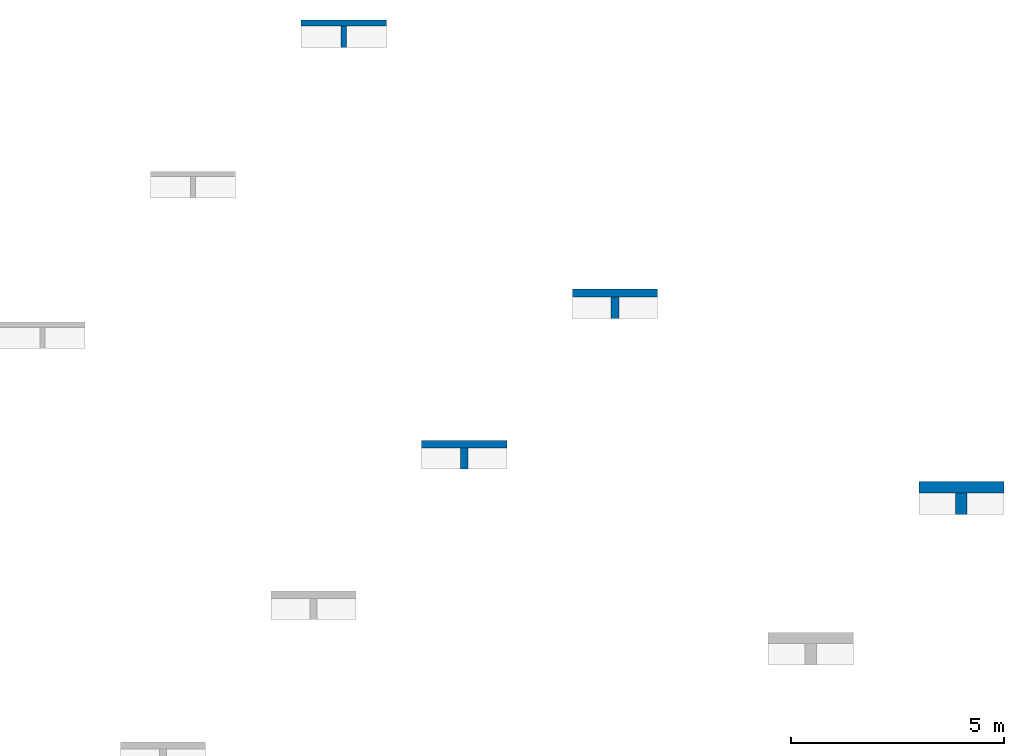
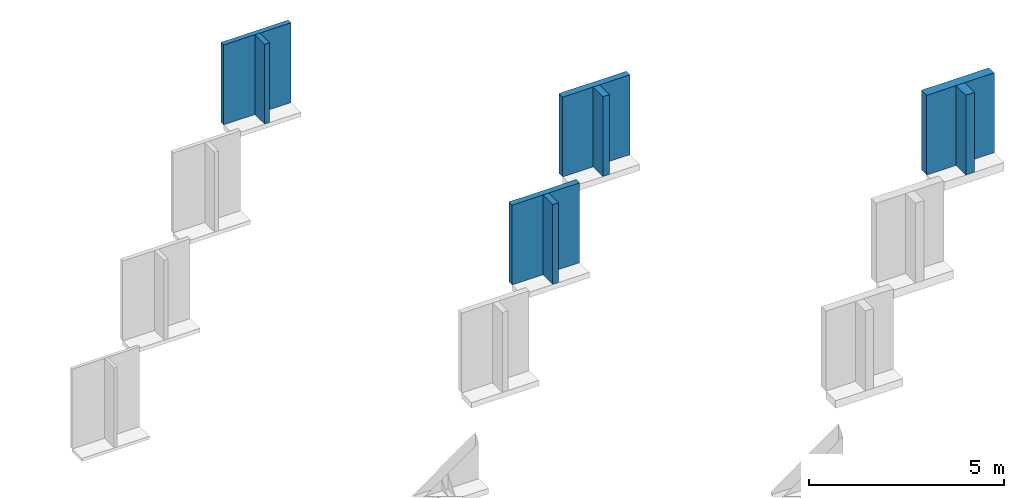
# One storey, part 2 of 2: 8 walls.
"""IFC2X3 building model written with IfcOpenShell, lengths in millimetres."""

from ifc_helpers import new_model, entity, si_unit, converted_unit, derived_unit, direction, frame, frame_2d, origin, place, context, subcontext, project, spatial, rectangle, extrude, material, layer, layer_set, layer_usage, type_object, element, save


model = new_model("IFC2X3")

# Units and contexts
model_context = context("Model", 3, precision=0.01, world=origin(), true_north=direction((6.12303176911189e-17, 1.0)))
context_of_model = context(None, 3, precision=0.01, world=origin(), true_north=direction((6.12303176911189e-17, 1.0)))
body_context = subcontext(model_context, "Body", "Model", "MODEL_VIEW")
ifc_project = project(units=[si_unit("LENGTHUNIT", "METRE", prefix="MILLI"), si_unit("AREAUNIT", "SQUARE_METRE"), si_unit("VOLUMEUNIT", "CUBIC_METRE"), converted_unit("PLANEANGLEUNIT", "DEGREE", entity("IfcRatioMeasure", 0.0174532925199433), si_unit("PLANEANGLEUNIT", "RADIAN"), dimensions=[0, 0, 0, 0, 0, 0, 0]), si_unit("MASSUNIT", "GRAM", prefix="KILO"), derived_unit("MASSDENSITYUNIT", [(si_unit("MASSUNIT", "GRAM", prefix="KILO"), 1), (si_unit("LENGTHUNIT", "METRE"), -3)]), si_unit("TIMEUNIT", "SECOND"), si_unit("FREQUENCYUNIT", "HERTZ"), si_unit("THERMODYNAMICTEMPERATUREUNIT", "DEGREE_CELSIUS"), derived_unit("THERMALTRANSMITTANCEUNIT", [(si_unit("MASSUNIT", "GRAM", prefix="KILO"), 1), (si_unit("THERMODYNAMICTEMPERATUREUNIT", "KELVIN"), -1), (si_unit("TIMEUNIT", "SECOND"), -3)]), derived_unit("VOLUMETRICFLOWRATEUNIT", [(si_unit("LENGTHUNIT", "METRE"), 3), (si_unit("TIMEUNIT", "SECOND"), -1)]), si_unit("ELECTRICCURRENTUNIT", "AMPERE"), si_unit("ELECTRICVOLTAGEUNIT", "VOLT"), si_unit("POWERUNIT", "WATT"), si_unit("FORCEUNIT", "NEWTON", prefix="KILO"), si_unit("ILLUMINANCEUNIT", "LUX"), si_unit("LUMINOUSFLUXUNIT", "LUMEN"), si_unit("LUMINOUSINTENSITYUNIT", "CANDELA"), derived_unit("USERDEFINED", [(si_unit("MASSUNIT", "GRAM", prefix="KILO"), -1), (si_unit("LENGTHUNIT", "METRE"), -2), (si_unit("TIMEUNIT", "SECOND"), 3), (si_unit("LUMINOUSFLUXUNIT", "LUMEN"), 1)]), derived_unit("LINEARVELOCITYUNIT", [(si_unit("LENGTHUNIT", "METRE"), 1), (si_unit("TIMEUNIT", "SECOND"), -1)]), si_unit("PRESSUREUNIT", "PASCAL"), derived_unit("USERDEFINED", [(si_unit("LENGTHUNIT", "METRE"), -2), (si_unit("MASSUNIT", "GRAM", prefix="KILO"), 1), (si_unit("TIMEUNIT", "SECOND"), -2)])], contexts=[model_context, context_of_model])

# Site, building, storey
site_placement = place(None, origin())
site = spatial("IfcSite", under=ifc_project, at=site_placement, Name="Default", CompositionType="ELEMENT")
building_placement = place(site_placement, origin())
building = spatial("IfcBuilding", under=site, at=building_placement, CompositionType="ELEMENT")
storey_placement = place(building_placement, origin())
storey = spatial("IfcBuildingStorey", under=building, at=storey_placement, Name="Begane grond", CompositionType="ELEMENT", Elevation=0.0)

# Walls
ifc_material = material(Name="Knauf Insulation_Ecose® glaswol_naturoll 037")
ifc_layer_1 = layer(ifc_material, 140.0)
ifc_layer_set_1 = layer_set([ifc_layer_1], Name="Basic Wall:NLRS_21_WA_Naturoll 037_140x380x5600mm")
ifc_layer_usage_1 = layer_usage(ifc_layer_set_1, "AXIS2", "NEGATIVE", 70.0)
wall_type_1 = type_object("IfcWallType", Name="Basic Wall:NLRS_21_WA_Naturoll 037_140x380x5600mm", PredefinedType="STANDARD", material=ifc_layer_set_1)
wall_1_placement = place(storey_placement, frame((5069.73094264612, 17251.2829007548, 0.0)))
element("IfcWallStandardCase", 1, at=wall_1_placement, inside=storey, type_object=wall_type_1, material=ifc_layer_usage_1, Name="Basic Wall:NLRS_21_WA_Naturoll 037_140x380x5600mm", ObjectType="Basic Wall:NLRS_21_WA_Naturoll 037_140x380x5600mm", context=body_context, shape_type="SweptSolid", body=[
    extrude(rectangle(XDim=2000.0, YDim=139.999999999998, at=frame_2d((1000.0, 0.0), x_axis=(-1.0, 0.0))), origin(), (0.0, 0.0, 1.0), 2500.0),
])
ifc_layer_usage_2 = layer_usage(ifc_layer_set_1, "AXIS2", "NEGATIVE", 70.0)
wall_2_placement = place(storey_placement, frame((6069.73094264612, 17181.2829007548, 0.0), z_axis=(0.0, 0.0, 1.0), x_axis=(0.0, -1.0, 0.0)))
element("IfcWallStandardCase", 2, at=wall_2_placement, inside=storey, type_object=wall_type_1, material=ifc_layer_usage_2, Name="Basic Wall:NLRS_21_WA_Naturoll 037_140x380x5600mm", ObjectType="Basic Wall:NLRS_21_WA_Naturoll 037_140x380x5600mm", context=body_context, shape_type="SweptSolid", body=[
    extrude(rectangle(XDim=500.000000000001, YDim=140.000000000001, at=frame_2d((250.000000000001, -1.35003119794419e-13), x_axis=(-1.0, 0.0))), origin(), (0.0, 0.0, 1.0), 2500.0),
])
ifc_layer_2 = layer(ifc_material, 170.0)
ifc_layer_set_2 = layer_set([ifc_layer_2], Name="Basic Wall:NLRS_21_WA_Naturoll 037_170x590x4600mm")
ifc_layer_usage_3 = layer_usage(ifc_layer_set_2, "AXIS2", "NEGATIVE", 85.0)
wall_type_2 = type_object("IfcWallType", Name="Basic Wall:NLRS_21_WA_Naturoll 037_170x590x4600mm", PredefinedType="STANDARD", material=ifc_layer_set_2)
wall_3_placement = place(storey_placement, frame((7898.1580673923, 7366.78796414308, 0.0)))
element("IfcWallStandardCase", 3, at=wall_3_placement, inside=storey, type_object=wall_type_2, material=ifc_layer_usage_3, Name="Basic Wall:NLRS_21_WA_Naturoll 037_170x590x4600mm", ObjectType="Basic Wall:NLRS_21_WA_Naturoll 037_170x590x4600mm", context=body_context, shape_type="SweptSolid", body=[
    extrude(rectangle(XDim=2000.0, YDim=170.0, at=frame_2d((1000.0, 0.0), x_axis=(-1.0, 0.0))), origin(), (0.0, 0.0, 1.0), 2500.0),
])
ifc_layer_usage_4 = layer_usage(ifc_layer_set_2, "AXIS2", "NEGATIVE", 85.0)
wall_4_placement = place(storey_placement, frame((8898.15806739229, 7281.78796414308, 0.0), z_axis=(0.0, 0.0, 1.0), x_axis=(0.0, -1.0, 0.0)))
element("IfcWallStandardCase", 4, at=wall_4_placement, inside=storey, type_object=wall_type_2, material=ifc_layer_usage_4, Name="Basic Wall:NLRS_21_WA_Naturoll 037_170x590x4600mm", ObjectType="Basic Wall:NLRS_21_WA_Naturoll 037_170x590x4600mm", context=body_context, shape_type="SweptSolid", body=[
    extrude(rectangle(XDim=499.999999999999, YDim=170.0, at=frame_2d((249.999999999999, -1.35003119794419e-13), x_axis=(-1.0, 0.0))), origin(), (0.0, 0.0, 1.0), 2500.0),
])
ifc_layer_3 = layer(ifc_material, 190.0)
ifc_layer_set_3 = layer_set([ifc_layer_3], Name="Basic Wall:NLRS_21_WA_Naturoll 037_190x580x4100mm")
ifc_layer_usage_5 = layer_usage(ifc_layer_set_3, "AXIS2", "NEGATIVE", 95.0)
wall_type_3 = type_object("IfcWallType", Name="Basic Wall:NLRS_21_WA_Naturoll 037_190x580x4100mm", PredefinedType="STANDARD", material=ifc_layer_set_3)
wall_5_placement = place(storey_placement, frame((11433.691973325, 10912.3218700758, 0.0)))
element("IfcWallStandardCase", 5, at=wall_5_placement, inside=storey, type_object=wall_type_3, material=ifc_layer_usage_5, Name="Basic Wall:NLRS_21_WA_Naturoll 037_190x580x4100mm", ObjectType="Basic Wall:NLRS_21_WA_Naturoll 037_190x580x4100mm", context=body_context, shape_type="SweptSolid", body=[
    extrude(rectangle(XDim=2000.0, YDim=190.0, at=frame_2d((1000.0, 0.0), x_axis=(-1.0, 0.0))), origin(), (0.0, 0.0, 1.0), 2500.0),
])
ifc_layer_usage_6 = layer_usage(ifc_layer_set_3, "AXIS2", "NEGATIVE", 95.0)
wall_6_placement = place(storey_placement, frame((12433.691973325, 10817.3218700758, 0.0), z_axis=(0.0, 0.0, 1.0), x_axis=(0.0, -1.0, 0.0)))
element("IfcWallStandardCase", 6, at=wall_6_placement, inside=storey, type_object=wall_type_3, material=ifc_layer_usage_6, Name="Basic Wall:NLRS_21_WA_Naturoll 037_190x580x4100mm", ObjectType="Basic Wall:NLRS_21_WA_Naturoll 037_190x580x4100mm", context=body_context, shape_type="SweptSolid", body=[
    extrude(rectangle(XDim=500.000000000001, YDim=190.0, at=frame_2d((250.000000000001, 4.05009359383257e-13), x_axis=(-1.0, 0.0))), origin(), (0.0, 0.0, 1.0), 2500.0),
])
ifc_layer_4 = layer(ifc_material, 265.0)
ifc_layer_set_4 = layer_set([ifc_layer_4], Name="Basic Wall:NLRS_21_WA_Naturoll 037_265x590x3000mm")
ifc_layer_usage_7 = layer_usage(ifc_layer_set_4, "AXIS2", "NEGATIVE", 132.5)
wall_type_4 = type_object("IfcWallType", Name="Basic Wall:NLRS_21_WA_Naturoll 037_265x590x3000mm", PredefinedType="STANDARD", material=ifc_layer_set_4)
wall_7_placement = place(storey_placement, frame((19565.4199569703, 6353.62779236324, 0.0)))
element("IfcWallStandardCase", 7, at=wall_7_placement, inside=storey, type_object=wall_type_4, material=ifc_layer_usage_7, Name="Basic Wall:NLRS_21_WA_Naturoll 037_265x590x3000mm", ObjectType="Basic Wall:NLRS_21_WA_Naturoll 037_265x590x3000mm", context=body_context, shape_type="SweptSolid", body=[
    extrude(rectangle(XDim=2000.0, YDim=265.0, at=frame_2d((1000.0, 0.0), x_axis=(-1.0, 0.0))), origin(), (0.0, 0.0, 1.0), 2500.0),
])
ifc_layer_usage_8 = layer_usage(ifc_layer_set_4, "AXIS2", "NEGATIVE", 132.5)
wall_8_placement = place(storey_placement, frame((20565.4199569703, 6221.12779236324, 0.0), z_axis=(0.0, 0.0, 1.0), x_axis=(0.0, -1.0, 0.0)))
element("IfcWallStandardCase", 8, at=wall_8_placement, inside=storey, type_object=wall_type_4, material=ifc_layer_usage_8, Name="Basic Wall:NLRS_21_WA_Naturoll 037_265x590x3000mm", ObjectType="Basic Wall:NLRS_21_WA_Naturoll 037_265x590x3000mm", context=body_context, shape_type="SweptSolid", body=[
    extrude(rectangle(XDim=500.000000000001, YDim=265.0, at=frame_2d((250.000000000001, 4.12114786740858e-13), x_axis=(-1.0, 0.0))), origin(), (0.0, 0.0, 1.0), 2500.0),
])

save(model, "model.ifc")
